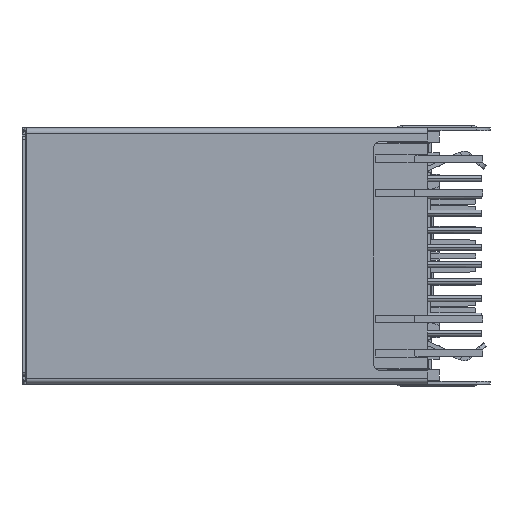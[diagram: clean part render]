
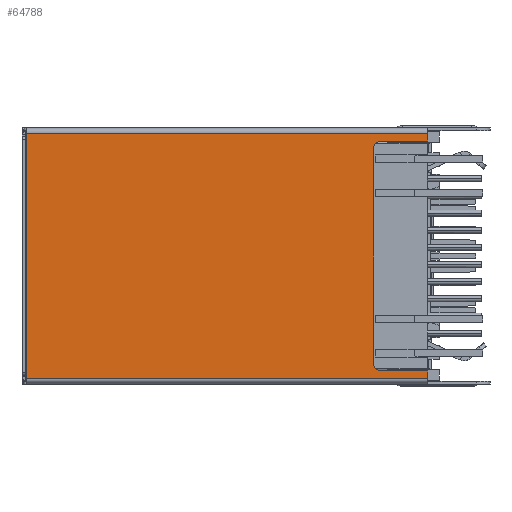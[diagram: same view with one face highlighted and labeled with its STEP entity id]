
A CAD part, left-side view. The second image highlights one B-rep face of the part: STEP entity #64788.
In plain terms, the highlighted planar face has unit normal (-1, 0, 0).
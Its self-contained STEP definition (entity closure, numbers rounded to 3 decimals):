
#12889=DIRECTION('',(0.,-1.,0.));
#12890=VECTOR('',#12889,29.7);
#12891=CARTESIAN_POINT('',(-27.16,-0.5,-9.075));
#12892=LINE('',#12891,#12890);
#12893=DIRECTION('',(0.,0.,-1.));
#12894=VECTOR('',#12893,0.575);
#12895=CARTESIAN_POINT('',(-27.16,-30.2,-8.5));
#12896=LINE('',#12895,#12894);
#12897=DIRECTION('',(0.,0.,-1.));
#12898=VECTOR('',#12897,0.575);
#12899=CARTESIAN_POINT('',(-27.16,-30.2,9.075));
#12900=LINE('',#12899,#12898);
#12901=CARTESIAN_POINT('',(-27.16,-26.7,8.));
#12902=DIRECTION('',(-1.,0.,0.));
#12903=DIRECTION('',(0.,0.,1.));
#12904=AXIS2_PLACEMENT_3D('',#12901,#12902,#12903);
#12906=DIRECTION('',(0.,0.,-1.));
#12907=VECTOR('',#12906,16.);
#12908=CARTESIAN_POINT('',(-27.16,-26.2,8.));
#12909=LINE('',#12908,#12907);
#12910=CARTESIAN_POINT('',(-27.16,-26.7,-8.));
#12911=DIRECTION('',(-1.,0.,0.));
#12912=DIRECTION('',(0.,1.,0.));
#12913=AXIS2_PLACEMENT_3D('',#12910,#12911,#12912);
#12915=DIRECTION('',(0.,1.,0.));
#12916=VECTOR('',#12915,3.5);
#12917=CARTESIAN_POINT('',(-27.16,-30.2,-8.5));
#12918=LINE('',#12917,#12916);
#12939=DIRECTION('',(0.,-1.,0.));
#12940=VECTOR('',#12939,3.5);
#12941=CARTESIAN_POINT('',(-27.16,-26.7,8.5));
#12942=LINE('',#12941,#12940);
#13387=DIRECTION('',(0.,1.,0.));
#13388=VECTOR('',#13387,29.7);
#13389=CARTESIAN_POINT('',(-27.16,-30.2,9.075));
#13390=LINE('',#13389,#13388);
#13391=DIRECTION('',(0.,0.,-1.));
#13392=VECTOR('',#13391,18.15);
#13393=CARTESIAN_POINT('',(-27.16,-0.5,9.075));
#13394=LINE('',#13393,#13392);
#38557=CARTESIAN_POINT('',(-27.16,-0.5,-9.075));
#38558=VERTEX_POINT('',#38557);
#38561=CARTESIAN_POINT('',(-27.16,-30.2,-9.075));
#38562=VERTEX_POINT('',#38561);
#38563=CARTESIAN_POINT('',(-27.16,-30.2,-8.5));
#38564=CARTESIAN_POINT('',(-27.16,-26.7,-8.5));
#38565=VERTEX_POINT('',#38563);
#38566=VERTEX_POINT('',#38564);
#38567=CARTESIAN_POINT('',(-27.16,-0.5,9.075));
#38568=VERTEX_POINT('',#38567);
#38569=CARTESIAN_POINT('',(-27.16,-30.2,9.075));
#38570=VERTEX_POINT('',#38569);
#38571=CARTESIAN_POINT('',(-27.16,-30.2,8.5));
#38572=VERTEX_POINT('',#38571);
#38573=CARTESIAN_POINT('',(-27.16,-26.7,8.5));
#38574=VERTEX_POINT('',#38573);
#38575=CARTESIAN_POINT('',(-27.16,-26.2,8.));
#38576=VERTEX_POINT('',#38575);
#38577=CARTESIAN_POINT('',(-27.16,-26.2,-8.));
#38578=VERTEX_POINT('',#38577);
#64762=CARTESIAN_POINT('',(-27.16,-15.35,0.));
#64763=DIRECTION('',(1.,0.,0.));
#64764=DIRECTION('',(0.,0.,1.));
#64765=AXIS2_PLACEMENT_3D('',#64762,#64763,#64764);
#64766=PLANE('',#64765);
#64768=ORIENTED_EDGE('',*,*,#64767,.F.);
#64770=ORIENTED_EDGE('',*,*,#64769,.T.);
#64771=ORIENTED_EDGE('',*,*,#64749,.F.);
#64773=ORIENTED_EDGE('',*,*,#64772,.F.);
#64775=ORIENTED_EDGE('',*,*,#64774,.F.);
#64777=ORIENTED_EDGE('',*,*,#64776,.T.);
#64779=ORIENTED_EDGE('',*,*,#64778,.F.);
#64781=ORIENTED_EDGE('',*,*,#64780,.T.);
#64783=ORIENTED_EDGE('',*,*,#64782,.T.);
#64785=ORIENTED_EDGE('',*,*,#64784,.T.);
#64786=EDGE_LOOP('',(#64768,#64770,#64771,#64773,#64775,#64777,#64779,#64781,
#64783,#64785));
#64787=FACE_OUTER_BOUND('',#64786,.F.);
#64788=ADVANCED_FACE('',(#64787),#64766,.F.);
#12905=CIRCLE('',#12904,0.5);
#12914=CIRCLE('',#12913,0.5);
#64749=EDGE_CURVE('',#38558,#38562,#12892,.T.);
#64767=EDGE_CURVE('',#38565,#38566,#12918,.T.);
#64769=EDGE_CURVE('',#38565,#38562,#12896,.T.);
#64772=EDGE_CURVE('',#38568,#38558,#13394,.T.);
#64774=EDGE_CURVE('',#38570,#38568,#13390,.T.);
#64776=EDGE_CURVE('',#38570,#38572,#12900,.T.);
#64778=EDGE_CURVE('',#38574,#38572,#12942,.T.);
#64780=EDGE_CURVE('',#38574,#38576,#12905,.T.);
#64782=EDGE_CURVE('',#38576,#38578,#12909,.T.);
#64784=EDGE_CURVE('',#38578,#38566,#12914,.T.);
